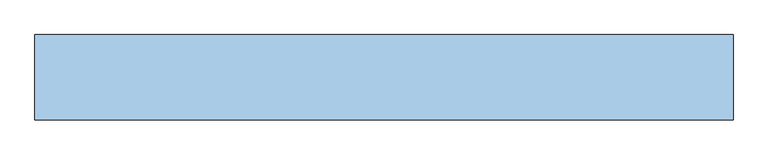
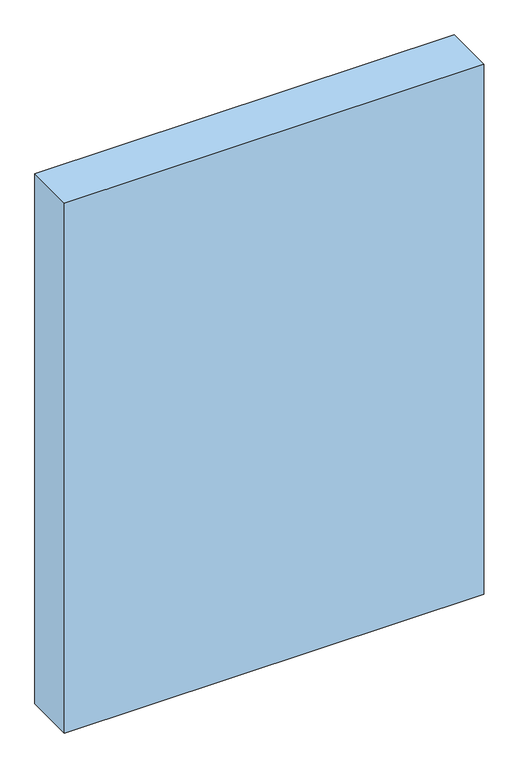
"""IFC4 building model written with IfcOpenShell, lengths in millimetres: window geometry, Dr_Проем-Четверти_об модель : ОК."""

from ifc_helpers import new_model, si_unit, frame, origin, place, context, project, spatial, polyline, outline, extrude, source, transform, mapped, element, save


def window_786e5193(model_context):
    return source(origin(), model_context, "Body", "SweptSolid", [
        extrude(outline(polyline([(955.0, 100.0), (955.0, -100.0), (-685.0, -100.0), (-685.0, 100.0), (955.0, 100.0)])), frame((0.0, 0.0, -70.0), z_axis=(0.0, 0.0, 1.0), x_axis=(1.0, 0.0, 0.0)), (0.0, 0.0, 1.0), 2190.0),
    ])


if __name__ == "__main__":
    model = new_model("IFC4")
    model_context = context("Model", 3, world=origin())
    ifc_project = project(units=[si_unit("LENGTHUNIT", "METRE", prefix="MILLI")], contexts=[model_context])
    site = spatial("IfcSite", under=ifc_project)
    building = spatial("IfcBuilding", under=site)
    placement = place(None, origin())
    window_shape = window_786e5193(model_context)
    element("IfcWindow", 1, ObjectType="Dr_Проем-Четверти_об модель : ОК", at=placement, inside=building, context=model_context, shape_type="MappedRepresentation", body=[
        mapped(window_shape, transform((0.0, 0.0, 0.0), x_axis=(1.0, 0.0, 0.0), y_axis=(0.0, 1.0, 0.0), z_axis=(0.0, 0.0, 1.0))),
    ])
    save(model, "model.ifc")
